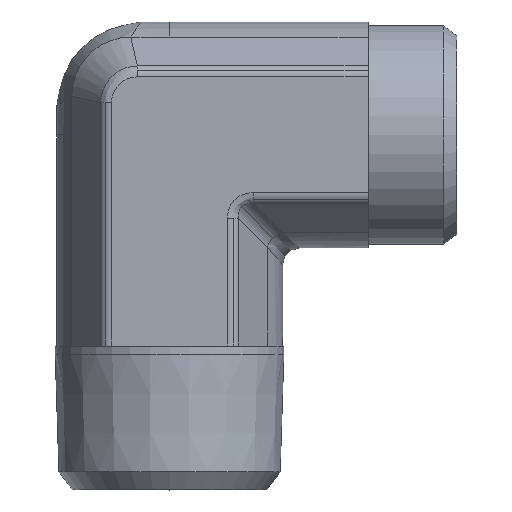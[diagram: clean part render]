
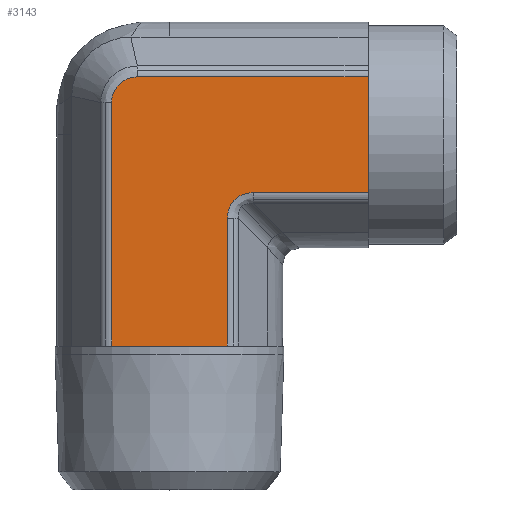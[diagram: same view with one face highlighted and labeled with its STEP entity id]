
A CAD part, top view. The second image highlights one B-rep face of the part: STEP entity #3143.
In plain terms, the highlighted planar face has unit normal (0, 0, 1) as drawn and (0, -1, 0) by its records, which use the part's own axes.
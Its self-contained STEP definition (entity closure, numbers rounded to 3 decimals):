
#319=CARTESIAN_POINT('',(5.387,-13.375,6.856));
#320=VERTEX_POINT('',#319);
#328=CARTESIAN_POINT('',(20.5,-13.375,6.856));
#329=VERTEX_POINT('',#328);
#330=CARTESIAN_POINT('',(5.387,-13.375,6.856));
#331=DIRECTION('',(1.0,0.0,0.0));
#332=VECTOR('',#331,15.113);
#333=LINE('',#330,#332);
#334=EDGE_CURVE('',#320,#329,#333,.T.);
#443=CARTESIAN_POINT('',(-11.356,-13.375,-3.819));
#444=VERTEX_POINT('',#443);
#452=CARTESIAN_POINT('',(-11.356,-13.375,23.5));
#453=VERTEX_POINT('',#452);
#454=CARTESIAN_POINT('',(-11.356,-13.375,-3.819));
#455=DIRECTION('',(0.0,0.0,1.0));
#456=VECTOR('',#455,27.319);
#457=LINE('',#454,#456);
#458=EDGE_CURVE('',#444,#453,#457,.T.);
#629=CARTESIAN_POINT('',(20.5,-13.375,0.));
#630=VERTEX_POINT('',#629);
#1992=CARTESIAN_POINT('',(2.356,-13.375,23.5));
#1993=VERTEX_POINT('',#1992);
#1994=CARTESIAN_POINT('',(2.356,-13.375,23.5));
#1995=DIRECTION('',(-1.0,0.0,0.0));
#1996=VECTOR('',#1995,13.712);
#1997=LINE('',#1994,#1996);
#1998=EDGE_CURVE('',#1993,#453,#1997,.T.);
#2353=CARTESIAN_POINT('',(20.5,-13.375,-6.856));
#2354=VERTEX_POINT('',#2353);
#2355=CARTESIAN_POINT('',(20.5,-13.375,-6.856));
#2356=DIRECTION('',(0.0,0.0,1.0));
#2357=VECTOR('',#2356,6.856);
#2358=LINE('',#2355,#2357);
#2359=EDGE_CURVE('',#2354,#630,#2358,.T.);
#2377=CARTESIAN_POINT('',(20.5,-13.375,0.));
#2378=DIRECTION('',(0.0,0.0,1.0));
#2379=VECTOR('',#2378,6.856);
#2380=LINE('',#2377,#2379);
#2381=EDGE_CURVE('',#630,#329,#2380,.T.);
#2778=CARTESIAN_POINT('',(-8.319,-13.375,-6.856));
#2779=VERTEX_POINT('',#2778);
#2787=CARTESIAN_POINT('',(-11.356,-13.375,-3.819));
#2788=CARTESIAN_POINT('',(-11.356,-13.375,-4.016));
#2789=CARTESIAN_POINT('',(-11.336,-13.375,-4.216));
#2790=CARTESIAN_POINT('',(-11.235,-13.375,-4.725));
#2791=CARTESIAN_POINT('',(-11.123,-13.375,-5.025));
#2792=CARTESIAN_POINT('',(-10.717,-13.375,-5.748));
#2793=CARTESIAN_POINT('',(-10.355,-13.375,-6.127));
#2794=CARTESIAN_POINT('',(-9.441,-13.375,-6.697));
#2795=CARTESIAN_POINT('',(-8.88,-13.375,-6.856));
#2796=CARTESIAN_POINT('',(-8.319,-13.375,-6.856));
#2797=B_SPLINE_CURVE_WITH_KNOTS('',3,(#2787,#2788,#2789,#2790,#2791,#2792,#2793,#2794,#2795,#2796),.UNSPECIFIED.,.F.,.U.,(4,2,2,2,4),(-4.746,-4.152,-3.203,-1.685,0.0),.UNSPECIFIED.);
#2798=EDGE_CURVE('',#2779,#444,#2797,.F.);
#2825=CARTESIAN_POINT('',(20.5,-13.375,-6.856));
#2826=DIRECTION('',(-1.0,0.0,0.0));
#2827=VECTOR('',#2826,28.819);
#2828=LINE('',#2825,#2827);
#2829=EDGE_CURVE('',#2354,#2779,#2828,.T.);
#2961=CARTESIAN_POINT('',(2.356,-13.375,9.887));
#2962=VERTEX_POINT('',#2961);
#2963=CARTESIAN_POINT('',(2.356,-13.375,23.5));
#2964=DIRECTION('',(0.0,0.0,-1.0));
#2965=VECTOR('',#2964,13.613);
#2966=LINE('',#2963,#2965);
#2967=EDGE_CURVE('',#1993,#2962,#2966,.T.);
#3100=CARTESIAN_POINT('',(6.397,-13.375,10.897));
#3101=DIRECTION('',(0.,-1.0,0.));
#3102=DIRECTION('',(-0.707,0.,-0.707));
#3103=AXIS2_PLACEMENT_3D('',#3100,#3101,#3102);
#3104=ELLIPSE('',#3103,4.518,3.5);
#3105=EDGE_CURVE('',#2962,#320,#3104,.T.);
#3127=CARTESIAN_POINT('',(-4.5,-13.375,-3.175));
#3128=DIRECTION('',(0.0,-1.0,0.0));
#3129=DIRECTION('',(0.0,0.0,-1.0));
#3130=AXIS2_PLACEMENT_3D('',#3127,#3128,#3129);
#3131=PLANE('',#3130);
#3132=ORIENTED_EDGE('',*,*,#1998,.T.);
#3133=ORIENTED_EDGE('',*,*,#458,.F.);
#3134=ORIENTED_EDGE('',*,*,#2798,.F.);
#3135=ORIENTED_EDGE('',*,*,#2829,.F.);
#3136=ORIENTED_EDGE('',*,*,#2359,.T.);
#3137=ORIENTED_EDGE('',*,*,#2381,.T.);
#3138=ORIENTED_EDGE('',*,*,#334,.F.);
#3139=ORIENTED_EDGE('',*,*,#3105,.F.);
#3140=ORIENTED_EDGE('',*,*,#2967,.F.);
#3141=EDGE_LOOP('',(#3132,#3133,#3134,#3135,#3136,#3137,#3138,#3139,#3140));
#3142=FACE_OUTER_BOUND('',#3141,.T.);
#3143=ADVANCED_FACE('',(#3142),#3131,.T.);
